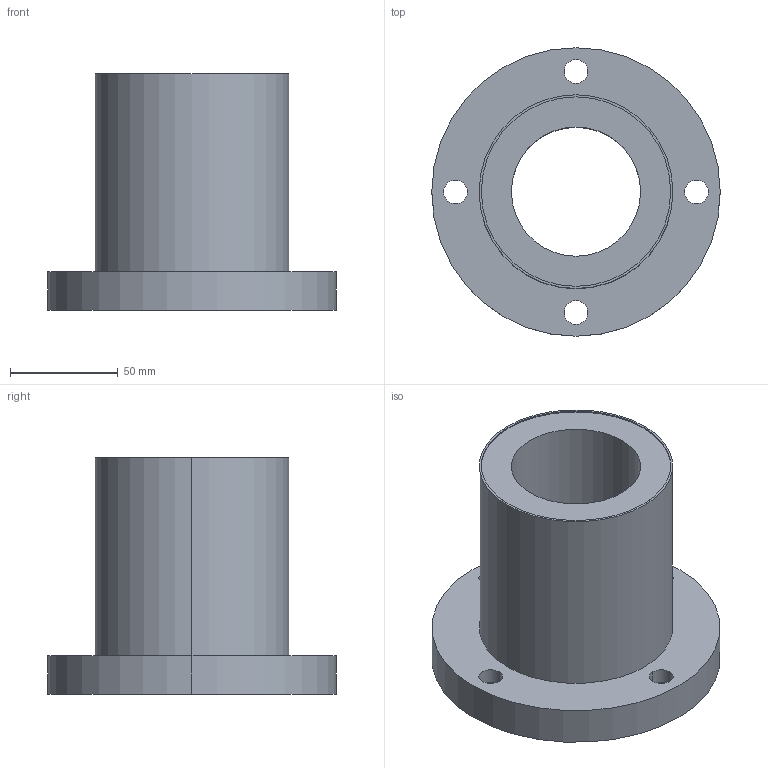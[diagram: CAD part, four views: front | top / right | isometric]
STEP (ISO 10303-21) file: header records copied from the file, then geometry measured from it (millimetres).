
FILE_DESCRIPTION((''),'2;1');
FILE_NAME('C:\Documents and Settings\ｿﾀﾀ蠑ｷ1\ｹﾙﾅﾁ ﾈｭｸ饅\ｺﾎﾇｰﾆﾄﾀﾏ\ﾁｦﾇｰ\LMF__UU\LMF60UU.stp','2005-06-15T09:39:58',('ｿﾀﾀ蠑ｷ1'),(''),'Autodesk Inventor 9','Autodesk Inventor 9','');
FILE_SCHEMA(('AUTOMOTIVE_DESIGN { 1 0 10303 214 1 1 1 1 }'));
Length unit declared in the file: millimetre
Products named in the file (1): LMF__
Bounding box: 134 x 134 x 110 mm (x, y, z)
Volume: 511316.2 mm3; surface area: 79583.5 mm2
Topology: 1 solids, 1 shells, 38 faces, 84 edges, 56 vertices
Faces by surface type: cylinder 28, plane 10
Entity records: 1127 total; most frequent: DIRECTION 218, CARTESIAN_POINT 179, ORIENTED_EDGE 168, AXIS2_PLACEMENT_3D 95, EDGE_CURVE 84, VERTEX_POINT 56, CIRCLE 56, EDGE_LOOP 56
